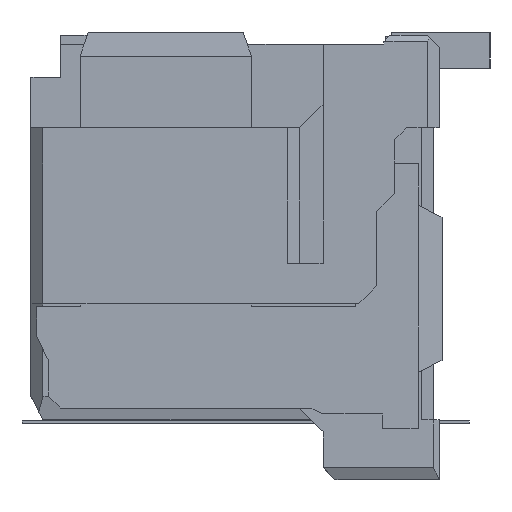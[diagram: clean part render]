
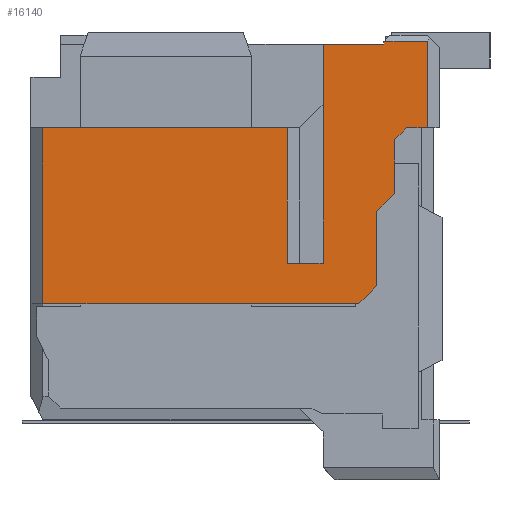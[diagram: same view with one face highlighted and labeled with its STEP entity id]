
A CAD part, left-side view. The second image highlights one B-rep face of the part: STEP entity #16140.
In plain terms, the highlighted planar face has unit normal (-1, 0, 0).
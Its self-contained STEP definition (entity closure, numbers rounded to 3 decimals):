
#5351=DIRECTION('',(0.,0.,-1.));
#5352=VECTOR('',#5351,2.95);
#5353=CARTESIAN_POINT('',(-10.,3.1,4.475));
#5354=LINE('',#5353,#5352);
#5355=DIRECTION('',(0.,-1.,0.));
#5356=VECTOR('',#5355,4.1);
#5357=CARTESIAN_POINT('',(-10.,3.1,4.475));
#5358=LINE('',#5357,#5356);
#5359=DIRECTION('',(0.,0.,1.));
#5360=VECTOR('',#5359,2.27);
#5361=CARTESIAN_POINT('',(-10.,-1.,2.205));
#5362=LINE('',#5361,#5360);
#5363=DIRECTION('',(0.,1.,0.));
#5364=VECTOR('',#5363,0.6);
#5365=CARTESIAN_POINT('',(-10.,-1.6,2.205));
#5366=LINE('',#5365,#5364);
#5367=DIRECTION('',(0.,1.,0.));
#5368=VECTOR('',#5367,1.02);
#5369=CARTESIAN_POINT('',(-10.,-2.62,5.875));
#5370=LINE('',#5369,#5368);
#5371=DIRECTION('',(0.,0.,-1.));
#5372=VECTOR('',#5371,0.05);
#5373=CARTESIAN_POINT('',(-10.,-2.62,5.925));
#5374=LINE('',#5373,#5372);
#5375=DIRECTION('',(0.,1.,0.));
#5376=VECTOR('',#5375,0.73);
#5377=CARTESIAN_POINT('',(-10.,-3.35,5.925));
#5378=LINE('',#5377,#5376);
#5379=DIRECTION('',(0.,0.,1.));
#5380=VECTOR('',#5379,1.45);
#5381=CARTESIAN_POINT('',(-10.,-3.35,4.475));
#5382=LINE('',#5381,#5380);
#5383=DIRECTION('',(0.,1.,0.));
#5384=VECTOR('',#5383,0.35);
#5385=CARTESIAN_POINT('',(-10.,-3.35,4.475));
#5386=LINE('',#5385,#5384);
#5387=DIRECTION('',(0.,0.707,-0.707));
#5388=VECTOR('',#5387,0.283);
#5389=CARTESIAN_POINT('',(-10.,-3.,4.475));
#5390=LINE('',#5389,#5388);
#5391=DIRECTION('',(0.,0.,-1.));
#5392=VECTOR('',#5391,0.9);
#5393=CARTESIAN_POINT('',(-10.,-2.8,4.275));
#5394=LINE('',#5393,#5392);
#5395=DIRECTION('',(0.,0.707,-0.707));
#5396=VECTOR('',#5395,0.424);
#5397=CARTESIAN_POINT('',(-10.,-2.8,3.375));
#5398=LINE('',#5397,#5396);
#5399=DIRECTION('',(0.,0.,-1.));
#5400=VECTOR('',#5399,1.25);
#5401=CARTESIAN_POINT('',(-10.,-2.5,3.075));
#5402=LINE('',#5401,#5400);
#5403=DIRECTION('',(0.,0.707,-0.707));
#5404=VECTOR('',#5403,0.424);
#5405=CARTESIAN_POINT('',(-10.,-2.5,1.825));
#5406=LINE('',#5405,#5404);
#5407=DIRECTION('',(0.,-1.,0.));
#5408=VECTOR('',#5407,5.3);
#5409=CARTESIAN_POINT('',(-10.,3.1,1.525));
#5410=LINE('',#5409,#5408);
#5827=DIRECTION('',(0.,0.,-1.));
#5828=VECTOR('',#5827,3.67);
#5829=CARTESIAN_POINT('',(-10.,-1.6,5.875));
#5830=LINE('',#5829,#5828);
#6839=CARTESIAN_POINT('',(-10.,-3.,4.475));
#6840=CARTESIAN_POINT('',(-10.,-2.8,4.275));
#6841=VERTEX_POINT('',#6839);
#6842=VERTEX_POINT('',#6840);
#6843=CARTESIAN_POINT('',(-10.,-2.8,3.375));
#6844=VERTEX_POINT('',#6843);
#6845=CARTESIAN_POINT('',(-10.,-2.5,3.075));
#6846=VERTEX_POINT('',#6845);
#6847=CARTESIAN_POINT('',(-10.,-2.5,1.825));
#6848=VERTEX_POINT('',#6847);
#6849=CARTESIAN_POINT('',(-10.,-2.2,1.525));
#6850=VERTEX_POINT('',#6849);
#6851=CARTESIAN_POINT('',(-10.,-1.6,5.875));
#6853=VERTEX_POINT('',#6851);
#6861=CARTESIAN_POINT('',(-10.,-2.62,5.875));
#6862=VERTEX_POINT('',#6861);
#8262=CARTESIAN_POINT('',(-10.,-1.6,2.205));
#8263=CARTESIAN_POINT('',(-10.,-1.,2.205));
#8264=VERTEX_POINT('',#8262);
#8265=VERTEX_POINT('',#8263);
#8266=CARTESIAN_POINT('',(-10.,-1.,4.475));
#8267=VERTEX_POINT('',#8266);
#8322=CARTESIAN_POINT('',(-10.,3.1,1.525));
#8324=VERTEX_POINT('',#8322);
#8328=CARTESIAN_POINT('',(-10.,3.1,4.475));
#8329=VERTEX_POINT('',#8328);
#8390=CARTESIAN_POINT('',(-10.,-3.35,5.925));
#8391=CARTESIAN_POINT('',(-10.,-2.62,5.925));
#8392=VERTEX_POINT('',#8390);
#8393=VERTEX_POINT('',#8391);
#8403=CARTESIAN_POINT('',(-10.,-3.35,4.475));
#8405=VERTEX_POINT('',#8403);
#16104=CARTESIAN_POINT('',(-10.,0.,2.3));
#16105=DIRECTION('',(-1.,0.,0.));
#16106=DIRECTION('',(0.,0.,1.));
#16107=AXIS2_PLACEMENT_3D('',#16104,#16105,#16106);
#16108=PLANE('',#16107);
#16110=ORIENTED_EDGE('',*,*,#16109,.F.);
#16112=ORIENTED_EDGE('',*,*,#16111,.T.);
#16114=ORIENTED_EDGE('',*,*,#16113,.F.);
#16116=ORIENTED_EDGE('',*,*,#16115,.F.);
#16118=ORIENTED_EDGE('',*,*,#16117,.F.);
#16119=ORIENTED_EDGE('',*,*,#12629,.F.);
#16120=ORIENTED_EDGE('',*,*,#16096,.F.);
#16121=ORIENTED_EDGE('',*,*,#10933,.F.);
#16123=ORIENTED_EDGE('',*,*,#16122,.F.);
#16125=ORIENTED_EDGE('',*,*,#16124,.T.);
#16127=ORIENTED_EDGE('',*,*,#16126,.T.);
#16129=ORIENTED_EDGE('',*,*,#16128,.T.);
#16131=ORIENTED_EDGE('',*,*,#16130,.T.);
#16133=ORIENTED_EDGE('',*,*,#16132,.T.);
#16135=ORIENTED_EDGE('',*,*,#16134,.T.);
#16137=ORIENTED_EDGE('',*,*,#16136,.F.);
#16138=EDGE_LOOP('',(#16110,#16112,#16114,#16116,#16118,#16119,#16120,#16121,
#16123,#16125,#16127,#16129,#16131,#16133,#16135,#16137));
#16139=FACE_OUTER_BOUND('',#16138,.F.);
#16140=ADVANCED_FACE('',(#16139),#16108,.T.);
#10933=EDGE_CURVE('',#8392,#8393,#5378,.T.);
#12629=EDGE_CURVE('',#6862,#6853,#5370,.T.);
#16096=EDGE_CURVE('',#8393,#6862,#5374,.T.);
#16109=EDGE_CURVE('',#8329,#8324,#5354,.T.);
#16111=EDGE_CURVE('',#8329,#8267,#5358,.T.);
#16113=EDGE_CURVE('',#8265,#8267,#5362,.T.);
#16115=EDGE_CURVE('',#8264,#8265,#5366,.T.);
#16117=EDGE_CURVE('',#6853,#8264,#5830,.T.);
#16122=EDGE_CURVE('',#8405,#8392,#5382,.T.);
#16124=EDGE_CURVE('',#8405,#6841,#5386,.T.);
#16126=EDGE_CURVE('',#6841,#6842,#5390,.T.);
#16128=EDGE_CURVE('',#6842,#6844,#5394,.T.);
#16130=EDGE_CURVE('',#6844,#6846,#5398,.T.);
#16132=EDGE_CURVE('',#6846,#6848,#5402,.T.);
#16134=EDGE_CURVE('',#6848,#6850,#5406,.T.);
#16136=EDGE_CURVE('',#8324,#6850,#5410,.T.);
